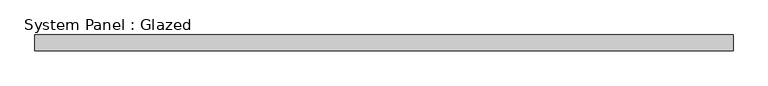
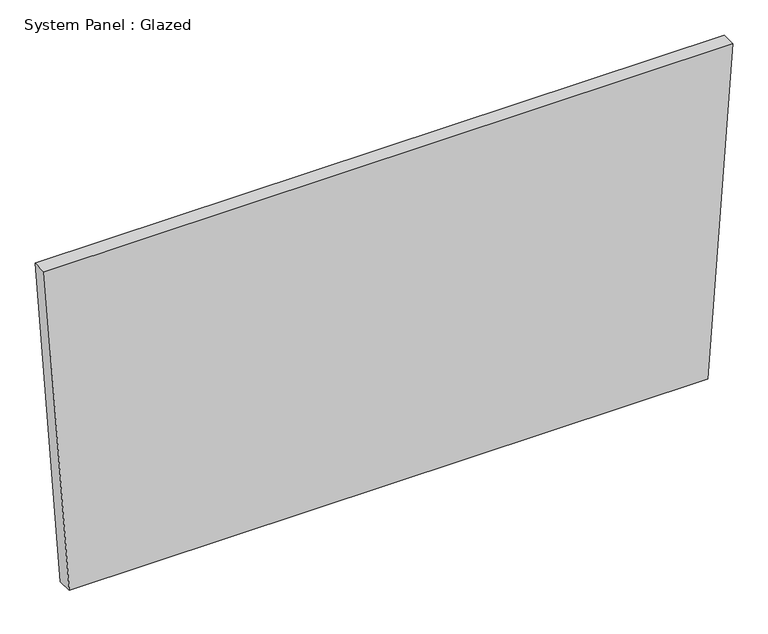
"""IFC4 building model written with IfcOpenShell, lengths in millimetres: plate geometry, System Panel : Glazed."""

from ifc_helpers import new_model, si_unit, frame, origin, place, context, project, spatial, polyline, outline, extrude, source, transform, mapped, element, save


def system_panel_glazed_21d52e58(model_context):
    return source(origin(), model_context, "Body", "SweptSolid", [
        extrude(outline(polyline([(0.0, -526.1217367), (0.0, 526.1217367), (569.8901817, 567.6203521), (569.8901817, -567.6203521), (0.0, -526.1217367)])), frame((0.0, -44.45, 0.0), z_axis=(0.0, 1.0, 0.0), x_axis=(0.0, 0.0, 1.0)), (0.0, 0.0, 1.0), 25.4),
    ])


if __name__ == "__main__":
    model = new_model("IFC4")
    model_context = context("Model", 3, world=origin())
    ifc_project = project(units=[si_unit("LENGTHUNIT", "METRE", prefix="MILLI")], contexts=[model_context])
    site = spatial("IfcSite", under=ifc_project)
    building = spatial("IfcBuilding", under=site)
    placement = place(None, origin())
    system_panel_glazed_shape = system_panel_glazed_21d52e58(model_context)
    element("IfcPlate", 1, ObjectType="System Panel : Glazed", at=placement, inside=building, context=model_context, shape_type="MappedRepresentation", body=[
        mapped(system_panel_glazed_shape, transform((0.0, 0.0, 0.0), x_axis=(1.0, 0.0, 0.0), y_axis=(0.0, 1.0, 0.0), z_axis=(0.0, 0.0, 1.0))),
    ])
    save(model, "model.ifc")
